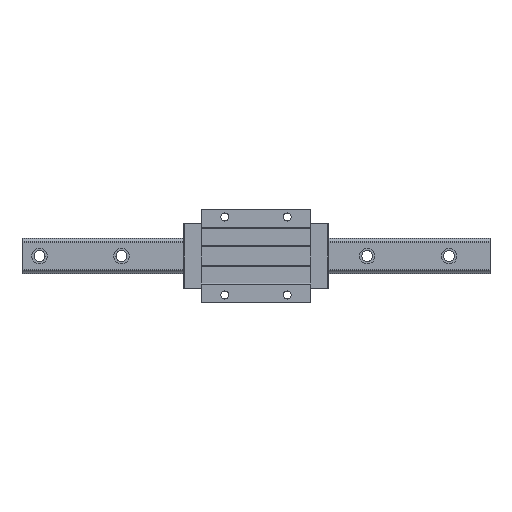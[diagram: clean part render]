
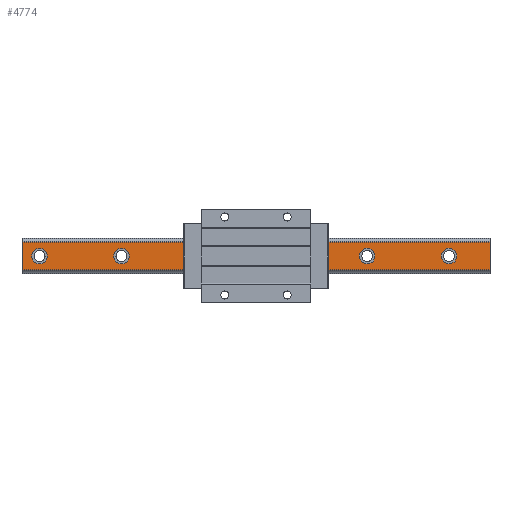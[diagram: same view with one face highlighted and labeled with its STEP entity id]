
A CAD part, top view. The second image highlights one B-rep face of the part: STEP entity #4774.
In plain terms, the highlighted planar face has unit normal (0, 0, 1).
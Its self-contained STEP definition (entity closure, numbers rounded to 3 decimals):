
#69 = CARTESIAN_POINT ( 'NONE',  ( -162.5, 0., 32. ) ) ;
#171 = DIRECTION ( 'NONE',  ( 0., 0., 1. ) ) ;
#172 = LINE ( 'NONE', #3165, #232 ) ;
#232 = VECTOR ( 'NONE', #6484, 1000. ) ;
#257 = AXIS2_PLACEMENT_3D ( 'NONE', #5807, #3550, #5695 ) ;
#269 = AXIS2_PLACEMENT_3D ( 'NONE', #3315, #5527, #434 ) ;
#364 = DIRECTION ( 'NONE',  ( 0., 0., 1. ) ) ;
#434 = DIRECTION ( 'NONE',  ( 0., 1., 0. ) ) ;
#479 = CARTESIAN_POINT ( 'NONE',  ( 300., 17.738, 32. ) ) ;
#498 = CIRCLE ( 'NONE', #3014, 10. ) ;
#771 = CARTESIAN_POINT ( 'NONE',  ( -300., -17.738, 32. ) ) ;
#812 = VERTEX_POINT ( 'NONE', #479 ) ;
#817 = CARTESIAN_POINT ( 'NONE',  ( 247.5, 0., 32. ) ) ;
#927 = AXIS2_PLACEMENT_3D ( 'NONE', #3570, #2446, #2277 ) ;
#952 = FACE_BOUND ( 'NONE', #6694, .T. ) ;
#1061 = CARTESIAN_POINT ( 'NONE',  ( 152.5, 0., 32. ) ) ;
#1062 = EDGE_LOOP ( 'NONE', ( #1704, #3311 ) ) ;
#1107 = CIRCLE ( 'NONE', #6250, 10. ) ;
#1213 = AXIS2_PLACEMENT_3D ( 'NONE', #3450, #4714, #2931 ) ;
#1255 = VERTEX_POINT ( 'NONE', #5838 ) ;
#1323 = VECTOR ( 'NONE', #7019, 1000. ) ;
#1353 = DIRECTION ( 'NONE',  ( 0., 0., 1. ) ) ;
#1354 = ORIENTED_EDGE ( 'NONE', *, *, #4225, .F. ) ;
#1527 = VERTEX_POINT ( 'NONE', #2271 ) ;
#1577 = CIRCLE ( 'NONE', #2539, 10. ) ;
#1600 = CARTESIAN_POINT ( 'NONE',  ( -300., 17.738, 32. ) ) ;
#1704 = ORIENTED_EDGE ( 'NONE', *, *, #3046, .F. ) ;
#1710 = VERTEX_POINT ( 'NONE', #3199 ) ;
#1780 = CARTESIAN_POINT ( 'NONE',  ( 257.5, 0., 32. ) ) ;
#1916 = EDGE_CURVE ( 'NONE', #1710, #5679, #4377, .T. ) ;
#1949 = VECTOR ( 'NONE', #2140, 1000. ) ;
#1955 = CARTESIAN_POINT ( 'NONE',  ( -277.5, 0., 32. ) ) ;
#2071 = FACE_BOUND ( 'NONE', #2521, .T. ) ;
#2108 = PLANE ( 'NONE',  #269 ) ;
#2140 = DIRECTION ( 'NONE',  ( 0., -1., 0. ) ) ;
#2167 = ORIENTED_EDGE ( 'NONE', *, *, #4062, .F. ) ;
#2202 = EDGE_CURVE ( 'NONE', #4487, #7033, #4618, .T. ) ;
#2222 = AXIS2_PLACEMENT_3D ( 'NONE', #4513, #6239, #6788 ) ;
#2243 = CIRCLE ( 'NONE', #927, 10. ) ;
#2271 = CARTESIAN_POINT ( 'NONE',  ( 132.5, 0., 32. ) ) ;
#2277 = DIRECTION ( 'NONE',  ( 1., 0., 0. ) ) ;
#2298 = DIRECTION ( 'NONE',  ( 0., 0., 1. ) ) ;
#2350 = ORIENTED_EDGE ( 'NONE', *, *, #2202, .F. ) ;
#2393 = DIRECTION ( 'NONE',  ( 0., 0., 1. ) ) ;
#2430 = ORIENTED_EDGE ( 'NONE', *, *, #5847, .F. ) ;
#2446 = DIRECTION ( 'NONE',  ( 0., 0., 1. ) ) ;
#2521 = EDGE_LOOP ( 'NONE', ( #5471, #6690 ) ) ;
#2525 = CIRCLE ( 'NONE', #5763, 10. ) ;
#2534 = VERTEX_POINT ( 'NONE', #1061 ) ;
#2539 = AXIS2_PLACEMENT_3D ( 'NONE', #7034, #6066, #6468 ) ;
#2580 = VERTEX_POINT ( 'NONE', #2676 ) ;
#2592 = AXIS2_PLACEMENT_3D ( 'NONE', #5708, #2298, #6309 ) ;
#2637 = CARTESIAN_POINT ( 'NONE',  ( -172.5, 0., 32. ) ) ;
#2676 = CARTESIAN_POINT ( 'NONE',  ( 300., -17.738, 32. ) ) ;
#2739 = ORIENTED_EDGE ( 'NONE', *, *, #5150, .T. ) ;
#2782 = DIRECTION ( 'NONE',  ( -1., 0., 0. ) ) ;
#2792 = ORIENTED_EDGE ( 'NONE', *, *, #3777, .T. ) ;
#2796 = EDGE_CURVE ( 'NONE', #7293, #1255, #4756, .T. ) ;
#2931 = DIRECTION ( 'NONE',  ( 1., 0., 0. ) ) ;
#3014 = AXIS2_PLACEMENT_3D ( 'NONE', #5503, #364, #4067 ) ;
#3046 = EDGE_CURVE ( 'NONE', #3999, #6658, #2243, .T. ) ;
#3165 = CARTESIAN_POINT ( 'NONE',  ( 300., -17.738, 32. ) ) ;
#3199 = CARTESIAN_POINT ( 'NONE',  ( 27.5, 0., 32. ) ) ;
#3205 = DIRECTION ( 'NONE',  ( 1., 0., 0. ) ) ;
#3241 = FACE_BOUND ( 'NONE', #6701, .T. ) ;
#3311 = ORIENTED_EDGE ( 'NONE', *, *, #4899, .F. ) ;
#3315 = CARTESIAN_POINT ( 'NONE',  ( 300., -17.738, 32. ) ) ;
#3371 = CIRCLE ( 'NONE', #257, 10. ) ;
#3450 = CARTESIAN_POINT ( 'NONE',  ( 37.5, 0., 32. ) ) ;
#3550 = DIRECTION ( 'NONE',  ( 0., 0., 1. ) ) ;
#3570 = CARTESIAN_POINT ( 'NONE',  ( -67.5, 0., 32. ) ) ;
#3614 = EDGE_CURVE ( 'NONE', #2580, #4117, #172, .T. ) ;
#3631 = DIRECTION ( 'NONE',  ( 0., 0., 1. ) ) ;
#3720 = DIRECTION ( 'NONE',  ( 1., 0., 0. ) ) ;
#3777 = EDGE_CURVE ( 'NONE', #4330, #4117, #6987, .T. ) ;
#3835 = EDGE_LOOP ( 'NONE', ( #6666, #4193 ) ) ;
#3886 = ORIENTED_EDGE ( 'NONE', *, *, #4348, .F. ) ;
#3892 = CARTESIAN_POINT ( 'NONE',  ( -172.5, 0., 32. ) ) ;
#3999 = VERTEX_POINT ( 'NONE', #7328 ) ;
#4005 = CARTESIAN_POINT ( 'NONE',  ( -300., -17.738, 32. ) ) ;
#4047 = AXIS2_PLACEMENT_3D ( 'NONE', #1955, #171, #3720 ) ;
#4062 = EDGE_CURVE ( 'NONE', #4834, #4442, #3371, .T. ) ;
#4067 = DIRECTION ( 'NONE',  ( 1., 0., 0. ) ) ;
#4071 = CARTESIAN_POINT ( 'NONE',  ( -77.5, 0., 32. ) ) ;
#4114 = EDGE_CURVE ( 'NONE', #5679, #1710, #4316, .T. ) ;
#4117 = VERTEX_POINT ( 'NONE', #4005 ) ;
#4193 = ORIENTED_EDGE ( 'NONE', *, *, #1916, .F. ) ;
#4225 = EDGE_CURVE ( 'NONE', #4442, #4834, #2525, .T. ) ;
#4316 = CIRCLE ( 'NONE', #1213, 10. ) ;
#4330 = VERTEX_POINT ( 'NONE', #1600 ) ;
#4336 = DIRECTION ( 'NONE',  ( 1., 0., 0. ) ) ;
#4348 = EDGE_CURVE ( 'NONE', #2534, #1527, #498, .T. ) ;
#4353 = LINE ( 'NONE', #6123, #1949 ) ;
#4377 = CIRCLE ( 'NONE', #2222, 10. ) ;
#4442 = VERTEX_POINT ( 'NONE', #1780 ) ;
#4487 = VERTEX_POINT ( 'NONE', #69 ) ;
#4497 = EDGE_LOOP ( 'NONE', ( #2350, #2430 ) ) ;
#4513 = CARTESIAN_POINT ( 'NONE',  ( 37.5, 0., 32. ) ) ;
#4618 = CIRCLE ( 'NONE', #4860, 10. ) ;
#4714 = DIRECTION ( 'NONE',  ( 0., 0., 1. ) ) ;
#4756 = CIRCLE ( 'NONE', #2592, 10. ) ;
#4774 = ADVANCED_FACE ( 'NONE', ( #4920, #2071, #7211, #7249, #5565, #952, #3241 ), #2108, .F. ) ;
#4797 = ORIENTED_EDGE ( 'NONE', *, *, #6339, .F. ) ;
#4834 = VERTEX_POINT ( 'NONE', #5080 ) ;
#4860 = AXIS2_PLACEMENT_3D ( 'NONE', #3892, #2393, #5769 ) ;
#4899 = EDGE_CURVE ( 'NONE', #6658, #3999, #1107, .T. ) ;
#4920 = FACE_BOUND ( 'NONE', #4497, .T. ) ;
#5014 = CIRCLE ( 'NONE', #4047, 10. ) ;
#5080 = CARTESIAN_POINT ( 'NONE',  ( 237.5, 0., 32. ) ) ;
#5150 = EDGE_CURVE ( 'NONE', #812, #4330, #7268, .T. ) ;
#5375 = EDGE_CURVE ( 'NONE', #1527, #2534, #1577, .T. ) ;
#5471 = ORIENTED_EDGE ( 'NONE', *, *, #2796, .F. ) ;
#5503 = CARTESIAN_POINT ( 'NONE',  ( 142.5, 0., 32. ) ) ;
#5527 = DIRECTION ( 'NONE',  ( 0., 0., -1. ) ) ;
#5529 = DIRECTION ( 'NONE',  ( 0., 0., 1. ) ) ;
#5565 = FACE_BOUND ( 'NONE', #3835, .T. ) ;
#5622 = CARTESIAN_POINT ( 'NONE',  ( 300., 17.738, 32. ) ) ;
#5638 = DIRECTION ( 'NONE',  ( 1., 0., 0. ) ) ;
#5679 = VERTEX_POINT ( 'NONE', #5870 ) ;
#5695 = DIRECTION ( 'NONE',  ( 1., 0., 0. ) ) ;
#5708 = CARTESIAN_POINT ( 'NONE',  ( -277.5, 0., 32. ) ) ;
#5763 = AXIS2_PLACEMENT_3D ( 'NONE', #817, #3631, #4336 ) ;
#5769 = DIRECTION ( 'NONE',  ( 1., 0., 0. ) ) ;
#5807 = CARTESIAN_POINT ( 'NONE',  ( 247.5, 0., 32. ) ) ;
#5838 = CARTESIAN_POINT ( 'NONE',  ( -287.5, 0., 32. ) ) ;
#5847 = EDGE_CURVE ( 'NONE', #7033, #4487, #6375, .T. ) ;
#5870 = CARTESIAN_POINT ( 'NONE',  ( 47.5, 0., 32. ) ) ;
#5917 = ORIENTED_EDGE ( 'NONE', *, *, #3614, .F. ) ;
#6012 = CARTESIAN_POINT ( 'NONE',  ( -267.5, 0., 32. ) ) ;
#6066 = DIRECTION ( 'NONE',  ( 0., 0., 1. ) ) ;
#6123 = CARTESIAN_POINT ( 'NONE',  ( 300., -17.738, 32. ) ) ;
#6239 = DIRECTION ( 'NONE',  ( 0., 0., 1. ) ) ;
#6250 = AXIS2_PLACEMENT_3D ( 'NONE', #6474, #1353, #5638 ) ;
#6309 = DIRECTION ( 'NONE',  ( 1., 0., 0. ) ) ;
#6339 = EDGE_CURVE ( 'NONE', #812, #2580, #4353, .T. ) ;
#6375 = CIRCLE ( 'NONE', #7340, 10. ) ;
#6468 = DIRECTION ( 'NONE',  ( 1., 0., 0. ) ) ;
#6474 = CARTESIAN_POINT ( 'NONE',  ( -67.5, 0., 32. ) ) ;
#6484 = DIRECTION ( 'NONE',  ( -1., 0., 0. ) ) ;
#6618 = ORIENTED_EDGE ( 'NONE', *, *, #5375, .F. ) ;
#6658 = VERTEX_POINT ( 'NONE', #4071 ) ;
#6666 = ORIENTED_EDGE ( 'NONE', *, *, #4114, .F. ) ;
#6690 = ORIENTED_EDGE ( 'NONE', *, *, #7361, .F. ) ;
#6694 = EDGE_LOOP ( 'NONE', ( #3886, #6618 ) ) ;
#6701 = EDGE_LOOP ( 'NONE', ( #1354, #2167 ) ) ;
#6788 = DIRECTION ( 'NONE',  ( 1., 0., 0. ) ) ;
#6987 = LINE ( 'NONE', #771, #1323 ) ;
#7019 = DIRECTION ( 'NONE',  ( 0., -1., 0. ) ) ;
#7033 = VERTEX_POINT ( 'NONE', #7367 ) ;
#7034 = CARTESIAN_POINT ( 'NONE',  ( 142.5, 0., 32. ) ) ;
#7079 = VECTOR ( 'NONE', #2782, 1000. ) ;
#7211 = FACE_OUTER_BOUND ( 'NONE', #7215, .T. ) ;
#7215 = EDGE_LOOP ( 'NONE', ( #2792, #5917, #4797, #2739 ) ) ;
#7249 = FACE_BOUND ( 'NONE', #1062, .T. ) ;
#7268 = LINE ( 'NONE', #5622, #7079 ) ;
#7293 = VERTEX_POINT ( 'NONE', #6012 ) ;
#7328 = CARTESIAN_POINT ( 'NONE',  ( -57.5, 0., 32. ) ) ;
#7340 = AXIS2_PLACEMENT_3D ( 'NONE', #2637, #5529, #3205 ) ;
#7361 = EDGE_CURVE ( 'NONE', #1255, #7293, #5014, .T. ) ;
#7367 = CARTESIAN_POINT ( 'NONE',  ( -182.5, 0., 32. ) ) ;
